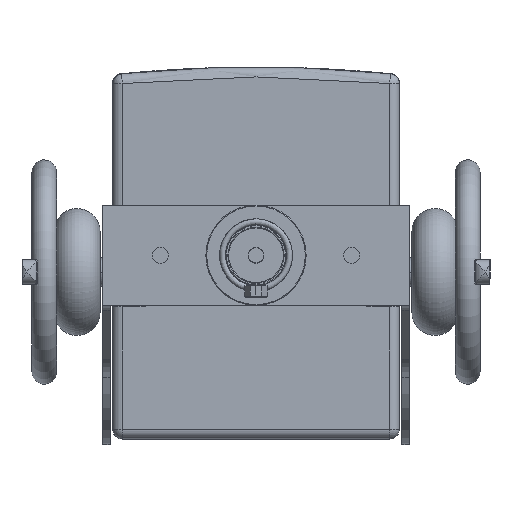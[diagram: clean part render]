
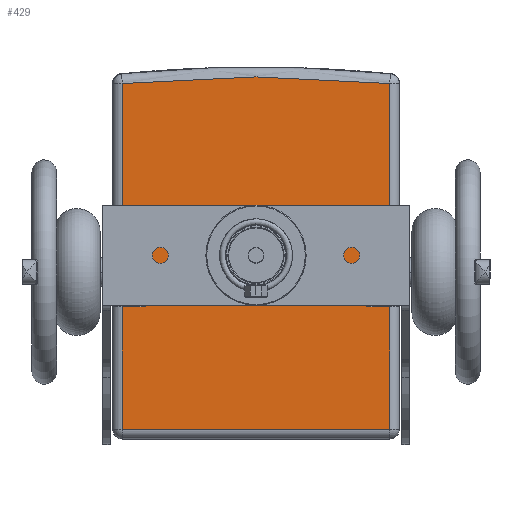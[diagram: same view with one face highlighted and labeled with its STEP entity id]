
A CAD part, front view. The second image highlights one B-rep face of the part: STEP entity #429.
In plain terms, the highlighted planar face has unit normal (0, -1, 0) as drawn and (0, 0, -1) by its records, which use the part's own axes.
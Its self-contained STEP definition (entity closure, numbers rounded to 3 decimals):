
#403 = ORIENTED_EDGE ( 'NONE', *, *, #7968, .F. ) ;
#406 = VERTEX_POINT ( 'NONE', #38143 ) ;
#417 = ORIENTED_EDGE ( 'NONE', *, *, #423, .F. ) ;
#423 = EDGE_CURVE ( 'NONE', #7970, #406, #38233, .T. ) ;
#429 = ADVANCED_FACE ( 'NONE', ( #38227, #38226 ), #38225, .F. ) ;
#431 = EDGE_LOOP ( 'NONE', ( #417, #403, #472, #465, #462, #448, #453, #456, #452, #1681, #5046, #481 ) ) ;
#447 = VERTEX_POINT ( 'NONE', #38260 ) ;
#448 = ORIENTED_EDGE ( 'NONE', *, *, #459, .F. ) ;
#449 = VERTEX_POINT ( 'NONE', #38256 ) ;
#450 = VERTEX_POINT ( 'NONE', #38255 ) ;
#451 = EDGE_CURVE ( 'NONE', #1761, #447, #38254, .T. ) ;
#452 = ORIENTED_EDGE ( 'NONE', *, *, #451, .F. ) ;
#453 = ORIENTED_EDGE ( 'NONE', *, *, #37231, .F. ) ;
#454 = EDGE_CURVE ( 'NONE', #447, #37229, #38250, .T. ) ;
#456 = ORIENTED_EDGE ( 'NONE', *, *, #454, .F. ) ;
#459 = EDGE_CURVE ( 'NONE', #36703, #450, #38246, .T. ) ;
#461 = EDGE_CURVE ( 'NONE', #450, #449, #38237, .T. ) ;
#462 = ORIENTED_EDGE ( 'NONE', *, *, #461, .F. ) ;
#463 = EDGE_CURVE ( 'NONE', #449, #37193, #38294, .T. ) ;
#465 = ORIENTED_EDGE ( 'NONE', *, *, #463, .F. ) ;
#472 = ORIENTED_EDGE ( 'NONE', *, *, #37195, .F. ) ;
#473 = ORIENTED_EDGE ( 'NONE', *, *, #36874, .F. ) ;
#478 = ORIENTED_EDGE ( 'NONE', *, *, #479, .F. ) ;
#479 = EDGE_CURVE ( 'NONE', #36875, #36872, #38269, .T. ) ;
#480 = EDGE_LOOP ( 'NONE', ( #478, #473 ) ) ;
#481 = ORIENTED_EDGE ( 'NONE', *, *, #482, .F. ) ;
#482 = EDGE_CURVE ( 'NONE', #406, #486, #38265, .T. ) ;
#486 = VERTEX_POINT ( 'NONE', #38320 ) ;
#555 = VERTEX_POINT ( 'NONE', #38394 ) ;
#1681 = ORIENTED_EDGE ( 'NONE', *, *, #1770, .F. ) ;
#1761 = VERTEX_POINT ( 'NONE', #38456 ) ;
#1770 = EDGE_CURVE ( 'NONE', #555, #1761, #38455, .T. ) ;
#5046 = ORIENTED_EDGE ( 'NONE', *, *, #5057, .F. ) ;
#5057 = EDGE_CURVE ( 'NONE', #486, #555, #38519, .T. ) ;
#7968 = EDGE_CURVE ( 'NONE', #36751, #7970, #38860, .T. ) ;
#7970 = VERTEX_POINT ( 'NONE', #38855 ) ;
#29647 = CARTESIAN_POINT ( 'NONE',  ( 68.5, 158., -7.5 ) ) ;
#29788 = CARTESIAN_POINT ( 'NONE',  ( 68.5, 10.866, -7.5 ) ) ;
#30037 = CARTESIAN_POINT ( 'NONE',  ( 167.5, 135., -7.5 ) ) ;
#30092 = CARTESIAN_POINT ( 'NONE',  ( 145.5, 135., -7.5 ) ) ;
#30093 = DIRECTION ( 'NONE',  ( -1., 0., 0. ) ) ;
#30094 = DIRECTION ( 'NONE',  ( 0., 0., -1. ) ) ;
#30095 = CARTESIAN_POINT ( 'NONE',  ( 156.5, 135., -7.5 ) ) ;
#30096 = AXIS2_PLACEMENT_3D ( 'NONE', #30095, #30094, #30093 ) ;
#30097 = CIRCLE ( 'NONE', #30096, 11. ) ;
#30796 = DIRECTION ( 'NONE',  ( 0., -1., 0. ) ) ;
#30797 = VECTOR ( 'NONE', #30796, 1000. ) ;
#30798 = CARTESIAN_POINT ( 'NONE',  ( 68.5, 181.75, -7.5 ) ) ;
#30799 = LINE ( 'NONE', #30798, #30797 ) ;
#30800 = CARTESIAN_POINT ( 'NONE',  ( 68.5, 112., -7.5 ) ) ;
#30853 = DIRECTION ( 'NONE',  ( 0., -1., 0. ) ) ;
#30854 = VECTOR ( 'NONE', #30853, 1000. ) ;
#30855 = CARTESIAN_POINT ( 'NONE',  ( 68.5, 198.25, -7.5 ) ) ;
#30856 = LINE ( 'NONE', #30855, #30854 ) ;
#30857 = CARTESIAN_POINT ( 'NONE',  ( 68.5, 238.5, -7.5 ) ) ;
#36703 = VERTEX_POINT ( 'NONE', #29647 ) ;
#36751 = VERTEX_POINT ( 'NONE', #29788 ) ;
#36872 = VERTEX_POINT ( 'NONE', #30037 ) ;
#36874 = EDGE_CURVE ( 'NONE', #36872, #36875, #30097, .T. ) ;
#36875 = VERTEX_POINT ( 'NONE', #30092 ) ;
#37193 = VERTEX_POINT ( 'NONE', #30800 ) ;
#37195 = EDGE_CURVE ( 'NONE', #37193, #36751, #30799, .T. ) ;
#37229 = VERTEX_POINT ( 'NONE', #30857 ) ;
#37231 = EDGE_CURVE ( 'NONE', #37229, #36703, #30856, .T. ) ;
#38143 = CARTESIAN_POINT ( 'NONE',  ( 244.5, 112., -7.5 ) ) ;
#38220 = DIRECTION ( 'NONE',  ( 1., 0., 0. ) ) ;
#38221 = DIRECTION ( 'NONE',  ( 0., 0., 1. ) ) ;
#38223 = CARTESIAN_POINT ( 'NONE',  ( 62.5, 245., -7.5 ) ) ;
#38224 = AXIS2_PLACEMENT_3D ( 'NONE', #38223, #38221, #38220 ) ;
#38225 = PLANE ( 'NONE',  #38224 ) ;
#38226 = FACE_BOUND ( 'NONE', #480, .T. ) ;
#38227 = FACE_OUTER_BOUND ( 'NONE', #431, .T. ) ;
#38228 = DIRECTION ( 'NONE',  ( 0., 1., 0. ) ) ;
#38230 = VECTOR ( 'NONE', #38228, 1000. ) ;
#38231 = CARTESIAN_POINT ( 'NONE',  ( 244.5, 245., -7.5 ) ) ;
#38233 = LINE ( 'NONE', #38231, #38230 ) ;
#38234 = DIRECTION ( 'NONE',  ( 0., -1., 0. ) ) ;
#38235 = VECTOR ( 'NONE', #38234, 1000. ) ;
#38236 = CARTESIAN_POINT ( 'NONE',  ( 83.5, 245., -7.5 ) ) ;
#38237 = LINE ( 'NONE', #38236, #38235 ) ;
#38243 = DIRECTION ( 'NONE',  ( 1., 0., 0. ) ) ;
#38244 = VECTOR ( 'NONE', #38243, 1000. ) ;
#38245 = CARTESIAN_POINT ( 'NONE',  ( 62.5, 158., -7.5 ) ) ;
#38246 = LINE ( 'NONE', #38245, #38244 ) ;
#38247 = DIRECTION ( 'NONE',  ( -1., 0., 0. ) ) ;
#38248 = VECTOR ( 'NONE', #38247, 1000. ) ;
#38249 = CARTESIAN_POINT ( 'NONE',  ( 62.5, 238.5, -7.5 ) ) ;
#38250 = LINE ( 'NONE', #38249, #38248 ) ;
#38251 = DIRECTION ( 'NONE',  ( 0., 1., 0. ) ) ;
#38252 = VECTOR ( 'NONE', #38251, 1000. ) ;
#38253 = CARTESIAN_POINT ( 'NONE',  ( 244.5, 245., -7.5 ) ) ;
#38254 = LINE ( 'NONE', #38253, #38252 ) ;
#38255 = CARTESIAN_POINT ( 'NONE',  ( 83.5, 158., -7.5 ) ) ;
#38256 = CARTESIAN_POINT ( 'NONE',  ( 83.5, 112., -7.5 ) ) ;
#38260 = CARTESIAN_POINT ( 'NONE',  ( 244.5, 238.5, -7.5 ) ) ;
#38264 = CARTESIAN_POINT ( 'NONE',  ( 62.5, 112., -7.5 ) ) ;
#38265 = LINE ( 'NONE', #38264, #38326 ) ;
#38266 = DIRECTION ( 'NONE',  ( -1., 0., 0. ) ) ;
#38267 = DIRECTION ( 'NONE',  ( 0., 0., -1. ) ) ;
#38268 = AXIS2_PLACEMENT_3D ( 'NONE', #38273, #38267, #38266 ) ;
#38269 = CIRCLE ( 'NONE', #38268, 11. ) ;
#38273 = CARTESIAN_POINT ( 'NONE',  ( 156.5, 135., -7.5 ) ) ;
#38291 = DIRECTION ( 'NONE',  ( -1., 0., 0. ) ) ;
#38292 = VECTOR ( 'NONE', #38291, 1000. ) ;
#38293 = CARTESIAN_POINT ( 'NONE',  ( 62.5, 112., -7.5 ) ) ;
#38294 = LINE ( 'NONE', #38293, #38292 ) ;
#38320 = CARTESIAN_POINT ( 'NONE',  ( 229.5, 112., -7.5 ) ) ;
#38325 = DIRECTION ( 'NONE',  ( -1., 0., 0. ) ) ;
#38326 = VECTOR ( 'NONE', #38325, 1000. ) ;
#38394 = CARTESIAN_POINT ( 'NONE',  ( 229.5, 158., -7.5 ) ) ;
#38452 = DIRECTION ( 'NONE',  ( 1., 0., 0. ) ) ;
#38453 = VECTOR ( 'NONE', #38452, 1000. ) ;
#38454 = CARTESIAN_POINT ( 'NONE',  ( 62.5, 158., -7.5 ) ) ;
#38455 = LINE ( 'NONE', #38454, #38453 ) ;
#38456 = CARTESIAN_POINT ( 'NONE',  ( 244.5, 158., -7.5 ) ) ;
#38516 = DIRECTION ( 'NONE',  ( 0., 1., 0. ) ) ;
#38517 = VECTOR ( 'NONE', #38516, 1000. ) ;
#38518 = CARTESIAN_POINT ( 'NONE',  ( 229.5, 245., -7.5 ) ) ;
#38519 = LINE ( 'NONE', #38518, #38517 ) ;
#38855 = CARTESIAN_POINT ( 'NONE',  ( 244.5, 10.866, -7.5 ) ) ;
#38856 = CARTESIAN_POINT ( 'NONE',  ( 244.5, 10.866, -7.5 ) ) ;
#38857 = CARTESIAN_POINT ( 'NONE',  ( 185.93, 5.04, -7.5 ) ) ;
#38858 = CARTESIAN_POINT ( 'NONE',  ( 127.07, 5.04, -7.5 ) ) ;
#38859 = CARTESIAN_POINT ( 'NONE',  ( 68.5, 10.866, -7.5 ) ) ;
#38860 =( BOUNDED_CURVE ( )  B_SPLINE_CURVE ( 3, ( #38859, #38858, #38857, #38856 ),
 .UNSPECIFIED., .F., .T. ) 
 B_SPLINE_CURVE_WITH_KNOTS ( ( 4, 4 ),
 ( 0., 1. ),
 .UNSPECIFIED. ) 
 CURVE ( )  GEOMETRIC_REPRESENTATION_ITEM ( )  RATIONAL_B_SPLINE_CURVE ( ( 1., 0.997, 0.997, 1. ) ) 
 REPRESENTATION_ITEM ( '' )  );
